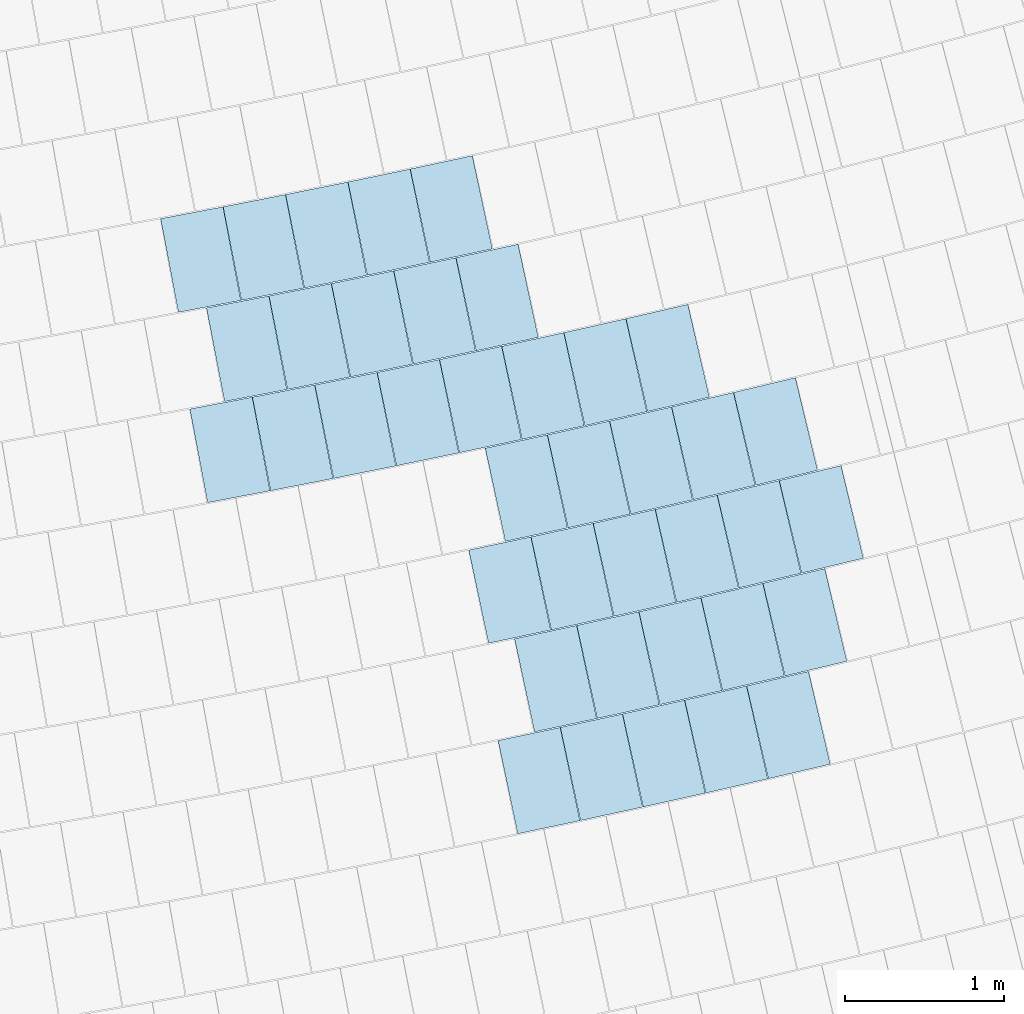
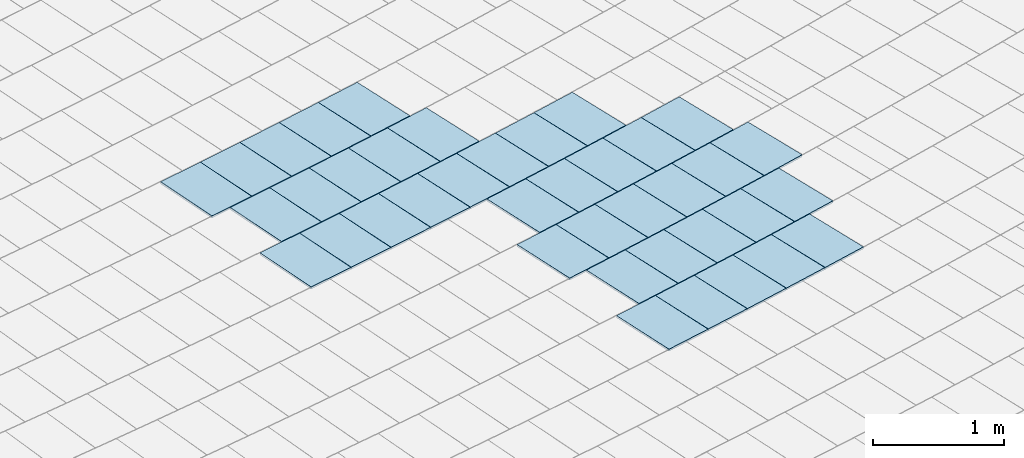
# One storey, part 47 of 438: 39 slabs.
"""IFC2X3 building model written with IfcOpenShell, lengths in millimetres."""

from ifc_helpers import new_model, entity, si_unit, converted_unit, derived_unit, direction, frame, origin, place, context, subcontext, project, spatial, polyline, outline, extrude, material, layer, layer_set, layer_usage, type_object, element, save


model = new_model("IFC2X3")

# Units and contexts
model_context = context("Model", 3, precision=0.01, world=origin(), true_north=direction((6.123031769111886e-17, 1.0)))
body_context = subcontext(model_context, "Body", "Model", "MODEL_VIEW")
ifc_project = project(units=[si_unit("LENGTHUNIT", "METRE", prefix="MILLI"), si_unit("AREAUNIT", "SQUARE_METRE"), si_unit("VOLUMEUNIT", "CUBIC_METRE"), converted_unit("PLANEANGLEUNIT", "DEGREE", entity("IfcRatioMeasure", 0.017453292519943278), si_unit("PLANEANGLEUNIT", "RADIAN"), dimensions=[0, 0, 0, 0, 0, 0, 0]), si_unit("MASSUNIT", "GRAM", prefix="KILO"), derived_unit("MASSDENSITYUNIT", [(si_unit("MASSUNIT", "GRAM", prefix="KILO"), 1), (si_unit("LENGTHUNIT", "METRE"), -3)]), derived_unit("MOMENTOFINERTIAUNIT", [(si_unit("LENGTHUNIT", "METRE"), 4)]), si_unit("TIMEUNIT", "SECOND"), si_unit("FREQUENCYUNIT", "HERTZ"), si_unit("THERMODYNAMICTEMPERATUREUNIT", "DEGREE_CELSIUS"), derived_unit("THERMALTRANSMITTANCEUNIT", [(si_unit("MASSUNIT", "GRAM", prefix="KILO"), 1), (si_unit("THERMODYNAMICTEMPERATUREUNIT", "KELVIN"), -1), (si_unit("TIMEUNIT", "SECOND"), -3)]), derived_unit("THERMALCONDUCTANCEUNIT", [(si_unit("MASSUNIT", "GRAM", prefix="KILO"), 1), (si_unit("LENGTHUNIT", "METRE"), 1), (si_unit("THERMODYNAMICTEMPERATUREUNIT", "KELVIN"), -1), (si_unit("TIMEUNIT", "SECOND"), -3)]), derived_unit("VOLUMETRICFLOWRATEUNIT", [(si_unit("LENGTHUNIT", "METRE"), 3), (si_unit("TIMEUNIT", "SECOND"), -1)]), derived_unit("MASSFLOWRATEUNIT", [(si_unit("MASSUNIT", "GRAM", prefix="KILO"), 1), (si_unit("TIMEUNIT", "SECOND"), -1)]), derived_unit("ROTATIONALFREQUENCYUNIT", [(si_unit("TIMEUNIT", "SECOND"), -1)]), si_unit("ELECTRICCURRENTUNIT", "AMPERE"), si_unit("ELECTRICVOLTAGEUNIT", "VOLT"), si_unit("POWERUNIT", "WATT"), converted_unit("FORCEUNIT", "KIP", entity("IfcRatioMeasure", 2.088543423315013e-05), si_unit("FORCEUNIT", "NEWTON"), dimensions=[1, 1, -2, 0, 0, 0, 0]), si_unit("ILLUMINANCEUNIT", "LUX"), si_unit("LUMINOUSFLUXUNIT", "LUMEN"), si_unit("LUMINOUSINTENSITYUNIT", "CANDELA"), derived_unit("USERDEFINED", [(si_unit("MASSUNIT", "GRAM", prefix="KILO"), -1), (si_unit("LENGTHUNIT", "METRE"), -2), (si_unit("TIMEUNIT", "SECOND"), 3), (si_unit("LUMINOUSFLUXUNIT", "LUMEN"), 1)]), derived_unit("USERDEFINED", [(si_unit("MASSUNIT", "GRAM", prefix="KILO"), 1), (si_unit("LENGTHUNIT", "METRE"), 3), (si_unit("TIMEUNIT", "SECOND"), -3), (si_unit("ELECTRICCURRENTUNIT", "AMPERE"), -2)]), derived_unit("USERDEFINED", [(si_unit("LENGTHUNIT", "METRE"), 2), (si_unit("TIMEUNIT", "SECOND"), -2)]), derived_unit("SOUNDPOWERUNIT", [(si_unit("MASSUNIT", "GRAM", prefix="KILO"), 1), (si_unit("LENGTHUNIT", "METRE"), 2), (si_unit("TIMEUNIT", "SECOND"), -3)]), derived_unit("SOUNDPRESSUREUNIT", [(si_unit("MASSUNIT", "GRAM", prefix="KILO"), 1), (si_unit("LENGTHUNIT", "METRE"), -1), (si_unit("TIMEUNIT", "SECOND"), -2)]), derived_unit("LINEARVELOCITYUNIT", [(si_unit("LENGTHUNIT", "METRE"), 1), (si_unit("TIMEUNIT", "SECOND"), -1)]), si_unit("PRESSUREUNIT", "PASCAL"), derived_unit("USERDEFINED", [(si_unit("LENGTHUNIT", "METRE"), -2), (si_unit("MASSUNIT", "GRAM", prefix="KILO"), 1), (si_unit("TIMEUNIT", "SECOND"), -2)]), derived_unit("LINEARFORCEUNIT", [(si_unit("MASSUNIT", "GRAM", prefix="KILO"), 1), (si_unit("LENGTHUNIT", "METRE"), 1), (si_unit("TIMEUNIT", "SECOND"), -2), (si_unit("LENGTHUNIT", "METRE"), -1)]), derived_unit("PLANARFORCEUNIT", [(si_unit("MASSUNIT", "GRAM", prefix="KILO"), 1), (si_unit("LENGTHUNIT", "METRE"), 1), (si_unit("TIMEUNIT", "SECOND"), -2), (si_unit("LENGTHUNIT", "METRE"), -2)]), derived_unit("SPECIFICHEATCAPACITYUNIT", [(si_unit("LENGTHUNIT", "METRE"), 2), (si_unit("TIMEUNIT", "SECOND"), -2), (si_unit("THERMODYNAMICTEMPERATUREUNIT", "KELVIN"), -1)]), derived_unit("VAPORPERMEABILITYUNIT", [(si_unit("TIMEUNIT", "SECOND"), 1), (si_unit("LENGTHUNIT", "METRE"), -1)]), derived_unit("DYNAMICVISCOSITYUNIT", [(si_unit("MASSUNIT", "GRAM", prefix="KILO"), 1), (si_unit("LENGTHUNIT", "METRE"), -1), (si_unit("TIMEUNIT", "SECOND"), -1)]), derived_unit("THERMALEXPANSIONCOEFFICIENTUNIT", [(si_unit("THERMODYNAMICTEMPERATUREUNIT", "KELVIN"), -1)])], contexts=[model_context])

# Site, building, storey
site_placement = place(None, frame((0.0, 0.0, 0.0), z_axis=(0.0, 0.0, 1.0), x_axis=(0.8191520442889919, 0.5735764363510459, 0.0)))
site = spatial("IfcSite", under=ifc_project, at=site_placement, Name="Default", CompositionType="ELEMENT")
building_placement = place(site_placement, origin())
building = spatial("IfcBuilding", under=site, at=building_placement, CompositionType="ELEMENT")
storey_placement = place(building_placement, origin())
storey = spatial("IfcBuildingStorey", under=building, at=storey_placement, Name="PLAN", CompositionType="ELEMENT", Elevation=0.0)

# Slabs
ifc_material = material(Name="Paint-01")
ifc_layer = layer(ifc_material, 20.00000000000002)
ifc_layer_set = layer_set([ifc_layer], Name="Floor:Slab-179:1000")
ifc_layer_usage = layer_usage(ifc_layer_set, "AXIS3", "POSITIVE", 0.0)
slab_type = type_object("IfcSlabType", Name="Floor:Slab-179:1000", PredefinedType="FLOOR", material=ifc_layer_set)
slab_1_placement = place(storey_placement, origin())
element("IfcSlab", 1, at=slab_1_placement, inside=storey, type_object=slab_type, material=ifc_layer_usage, Name="Floor:Slab-179:1000", ObjectType="Floor:Slab-179:1000", PredefinedType="FLOOR", context=body_context, shape_type="SweptSolid", body=[
    extrude(outline(polyline([(-299.999998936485, -200.0000029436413), (300.000001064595, -200.0000029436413), (299.9999989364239, 200.00000294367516), (-300.0000010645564, 200.00000294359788), (-299.999998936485, -200.0000029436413)])), frame((-67184.87311862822, -135077.35824466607, 20.0), z_axis=(0.0, 0.0, -1.0), x_axis=(-0.3715200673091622, -0.9284249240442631, 0.0)), (0.0, 0.0, 1.0), 20.000000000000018),
])
slab_2_placement = place(storey_placement, origin())
element("IfcSlab", 2, at=slab_2_placement, inside=storey, type_object=slab_type, material=ifc_layer_usage, Name="Floor:Slab-179:1000", ObjectType="Floor:Slab-179:1000", PredefinedType="FLOOR", context=body_context, shape_type="SweptSolid", body=[
    extrude(outline(polyline([(-299.9999989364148, -200.00000294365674), (300.00000106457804, -200.00000294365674), (299.9999989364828, 200.00000294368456), (-300.0000010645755, 200.0000029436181), (-299.9999989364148, -200.00000294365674)])), frame((-68299.83986830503, -134620.37653979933, 20.0), z_axis=(0.0, 0.0, -1.0), x_axis=(-0.38694039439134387, -0.9221047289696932, 0.0)), (0.0, 0.0, 1.0), 20.00000000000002),
])
slab_3_placement = place(storey_placement, origin())
element("IfcSlab", 3, at=slab_3_placement, inside=storey, type_object=slab_type, material=ifc_layer_usage, Name="Floor:Slab-179:1000", ObjectType="Floor:Slab-179:1000", PredefinedType="FLOOR", context=body_context, shape_type="SweptSolid", body=[
    extrude(outline(polyline([(-299.9999989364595, -200.0000029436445), (300.0000010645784, -200.0000029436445), (299.9999989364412, 200.00000294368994), (-300.000001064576, 200.00000294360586), (-299.9999989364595, -200.0000029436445)])), frame((-68669.78395065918, -134463.92797277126, 20.0), z_axis=(0.0, 0.0, -1.0), x_axis=(-0.39205683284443, -0.9199409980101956, 0.0)), (0.0, 0.0, 1.0), 20.00000000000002),
])
slab_4_placement = place(storey_placement, origin())
element("IfcSlab", 4, at=slab_4_placement, inside=storey, type_object=slab_type, material=ifc_layer_usage, Name="Floor:Slab-179:1000", ObjectType="Floor:Slab-179:1000", PredefinedType="FLOOR", context=body_context, shape_type="SweptSolid", body=[
    extrude(outline(polyline([(-299.9999989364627, -200.00000294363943), (300.0000010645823, -200.00000294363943), (299.99999893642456, 200.00000294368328), (-300.0000010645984, 200.00000294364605), (-299.9999989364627, -200.00000294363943)])), frame((-67929.03240246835, -134774.76760648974, 20.0), z_axis=(0.0, 0.0, -1.0), x_axis=(-0.3818120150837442, -0.9242400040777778, 0.0)), (0.0, 0.0, 1.0), 20.00000000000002),
])
slab_5_placement = place(storey_placement, origin())
element("IfcSlab", 5, at=slab_5_placement, inside=storey, type_object=slab_type, material=ifc_layer_usage, Name="Floor:Slab-179:1000", ObjectType="Floor:Slab-179:1000", PredefinedType="FLOOR", context=body_context, shape_type="SweptSolid", body=[
    extrude(outline(polyline([(-299.99999893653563, -200.000002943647), (300.00000106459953, -200.000002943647), (299.9999989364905, 200.00000294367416), (-300.0000010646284, 200.00000294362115), (-299.99999893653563, -200.000002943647)])), frame((-66729.61206488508, -134607.43269815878, 20.0), z_axis=(0.0, 0.0, -1.0), x_axis=(-0.3683054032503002, -0.9297048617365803, 0.0)), (0.0, 0.0, 1.0), 20.00000000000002),
])
slab_6_placement = place(storey_placement, origin())
element("IfcSlab", 6, at=slab_6_placement, inside=storey, type_object=slab_type, material=ifc_layer_usage, Name="Floor:Slab-179:1000", ObjectType="Floor:Slab-179:1000", PredefinedType="FLOOR", context=body_context, shape_type="SweptSolid", body=[
    extrude(outline(polyline([(-299.9999989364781, -200.0000029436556), (300.00000106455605, -200.0000029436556), (299.9999989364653, 200.00000294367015), (-300.0000010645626, 200.00000294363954), (-299.9999989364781, -200.0000029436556)])), frame((-67557.37299614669, -134927.0964083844, 20.0), z_axis=(0.0, 0.0, -1.0), x_axis=(-0.3766718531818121, -0.9263467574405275, 0.0)), (0.0, 0.0, 1.0), 20.000000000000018),
])
slab_7_placement = place(storey_placement, origin())
element("IfcSlab", 7, at=slab_7_placement, inside=storey, type_object=slab_type, material=ifc_layer_usage, Name="Floor:Slab-179:1000", ObjectType="Floor:Slab-179:1000", PredefinedType="FLOOR", context=body_context, shape_type="SweptSolid", body=[
    extrude(outline(polyline([(-299.9999989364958, -200.00000294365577), (300.00000106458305, -200.0000029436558), (299.99999893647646, 200.00000294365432), (-300.0000010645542, 200.00000294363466), (-299.9999989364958, -200.00000294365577)])), frame((-67474.82586487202, -134307.37314821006, 20.0), z_axis=(0.0, 0.0, -1.0), x_axis=(-0.37869890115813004, -0.9255199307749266, 0.0)), (0.0, 0.0, 1.0), 20.00000000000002),
])
slab_8_placement = place(storey_placement, origin())
element("IfcSlab", 8, at=slab_8_placement, inside=storey, type_object=slab_type, material=ifc_layer_usage, Name="Floor:Slab-179:1000", ObjectType="Floor:Slab-179:1000", PredefinedType="FLOOR", context=body_context, shape_type="SweptSolid", body=[
    extrude(outline(polyline([(-299.99999893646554, -200.00000294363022), (300.00000106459, -200.0000029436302), (299.99999893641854, 200.00000294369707), (-300.0000010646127, 200.00000294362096), (-299.99999893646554, -200.00000294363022)])), frame((-68216.63095569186, -133998.98289472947, 20.0), z_axis=(0.0, 0.0, -1.0), x_axis=(-0.38904485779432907, -0.9212188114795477, 0.0)), (0.0, 0.0, 1.0), 20.00000000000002),
])
slab_9_placement = place(storey_placement, origin())
element("IfcSlab", 9, at=slab_9_placement, inside=storey, type_object=slab_type, material=ifc_layer_usage, Name="Floor:Slab-179:1000", ObjectType="Floor:Slab-179:1000", PredefinedType="FLOOR", context=body_context, shape_type="SweptSolid", body=[
    extrude(outline(polyline([(-299.9999989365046, -200.00000294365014), (300.0000010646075, -200.00000294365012), (299.99999893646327, 200.00000294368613), (-300.00000106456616, 200.00000294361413), (-299.9999989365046, -200.00000294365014)])), frame((-67846.16032941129, -134154.21696418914, 20.0), z_axis=(0.0, 0.0, -1.0), x_axis=(-0.3838779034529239, -0.9233838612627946, 0.0)), (0.0, 0.0, 1.0), 20.000000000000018),
])
slab_10_placement = place(storey_placement, origin())
element("IfcSlab", 10, at=slab_10_placement, inside=storey, type_object=slab_type, material=ifc_layer_usage, Name="Floor:Slab-179:1000", ObjectType="Floor:Slab-179:1000", PredefinedType="FLOOR", context=body_context, shape_type="SweptSolid", body=[
    extrude(outline(polyline([(-299.9999989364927, -200.0000029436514), (300.00000106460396, -200.0000029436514), (299.99999893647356, 200.0000029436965), (-300.0000010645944, 200.00000294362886), (-299.9999989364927, -200.0000029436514)])), frame((-67102.63921635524, -134458.44664000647, 20.0), z_axis=(0.0, 0.0, -1.0), x_axis=(-0.37350801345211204, -0.9276269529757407, 0.0)), (0.0, 0.0, 1.0), 20.000000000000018),
])
slab_11_placement = place(storey_placement, origin())
element("IfcSlab", 11, at=slab_11_placement, inside=storey, type_object=slab_type, material=ifc_layer_usage, Name="Floor:Slab-179:1000", ObjectType="Floor:Slab-179:1000", PredefinedType="FLOOR", context=body_context, shape_type="SweptSolid", body=[
    extrude(outline(polyline([(-299.999998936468, -200.00000294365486), (300.0000010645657, -200.00000294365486), (299.99999893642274, 200.0000029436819), (-300.0000010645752, 200.00000294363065), (-299.999998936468, -200.00000294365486)])), frame((-66274.01299293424, -134136.70195797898, 20.0), z_axis=(0.0, 0.0, -1.0), x_axis=(-0.3650312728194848, -0.9309952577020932, 0.0)), (0.0, 0.0, 1.0), 20.000000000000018),
])
slab_12_placement = place(storey_placement, origin())
element("IfcSlab", 12, at=slab_12_placement, inside=storey, type_object=slab_type, material=ifc_layer_usage, Name="Floor:Slab-179:1000", ObjectType="Floor:Slab-179:1000", PredefinedType="FLOOR", context=body_context, shape_type="SweptSolid", body=[
    extrude(outline(polyline([(-299.9999989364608, -200.0000029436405), (300.00000106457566, -200.0000029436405), (299.9999989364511, 200.00000294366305), (-300.0000010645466, 200.00000294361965), (-299.9999989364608, -200.0000029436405)])), frame((-66647.57194783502, -133989.01538009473, 20.0), z_axis=(0.0, 0.0, -1.0), x_axis=(-0.37028563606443, -0.9289179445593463, 0.0)), (0.0, 0.0, 1.0), 20.00000000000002),
])
slab_13_placement = place(storey_placement, origin())
element("IfcSlab", 13, at=slab_13_placement, inside=storey, type_object=slab_type, material=ifc_layer_usage, Name="Floor:Slab-179:1000", ObjectType="Floor:Slab-179:1000", PredefinedType="FLOOR", context=body_context, shape_type="SweptSolid", body=[
    extrude(outline(polyline([(-299.9999989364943, -200.00000294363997), (300.0000010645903, -200.00000294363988), (299.9999989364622, 200.00000294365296), (-300.00000106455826, 200.0000029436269), (-299.9999989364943, -200.00000294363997)])), frame((-67020.29050034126, -133839.22052473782, 20.0), z_axis=(0.0, 0.0, -1.0), x_axis=(-0.37552817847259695, -0.9268109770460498, 0.0)), (0.0, 0.0, 1.0), 20.00000000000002),
])
slab_14_placement = place(storey_placement, origin())
element("IfcSlab", 14, at=slab_14_placement, inside=storey, type_object=slab_type, material=ifc_layer_usage, Name="Floor:Slab-179:1000", ObjectType="Floor:Slab-179:1000", PredefinedType="FLOOR", context=body_context, shape_type="SweptSolid", body=[
    extrude(outline(polyline([(-299.9999989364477, -200.0000029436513), (300.000001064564, -200.00000294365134), (299.9999989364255, 200.00000294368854), (-300.0000010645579, 200.0000029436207), (-299.9999989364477, -200.0000029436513)])), frame((-67392.15675194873, -133687.3221738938, 20.0), z_axis=(0.0, 0.0, -1.0), x_axis=(-0.3807587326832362, -0.9246744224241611, 0.0)), (0.0, 0.0, 1.0), 20.00000000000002),
])
slab_15_placement = place(storey_placement, origin())
element("IfcSlab", 15, at=slab_15_placement, inside=storey, type_object=slab_type, material=ifc_layer_usage, Name="Floor:Slab-179:1000", ObjectType="Floor:Slab-179:1000", PredefinedType="FLOOR", context=body_context, shape_type="SweptSolid", body=[
    extrude(outline(polyline([(-299.99999893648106, -200.0000029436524), (300.00000106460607, -200.00000294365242), (299.99999893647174, 200.0000029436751), (-300.00000106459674, 200.00000294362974), (-299.99999893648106, -200.0000029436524)])), frame((-67763.15883136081, -133533.3251766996, 20.0), z_axis=(0.0, 0.0, -1.0), x_axis=(-0.38597713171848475, -0.9225083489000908, 0.0)), (0.0, 0.0, 1.0), 20.000000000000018),
])
slab_16_placement = place(storey_placement, origin())
element("IfcSlab", 16, at=slab_16_placement, inside=storey, type_object=slab_type, material=ifc_layer_usage, Name="Floor:Slab-179:1000", ObjectType="Floor:Slab-179:1000", PredefinedType="FLOOR", context=body_context, shape_type="SweptSolid", body=[
    extrude(outline(polyline([(-299.99999893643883, -200.00000294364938), (300.00000106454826, -200.00000294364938), (299.99999893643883, 200.00000294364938), (-300.0000010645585, 200.00000294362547), (-299.99999893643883, -200.00000294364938)])), frame((-68133.28489487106, -133377.23444928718, 20.0), z_axis=(0.0, 0.0, -1.0), x_axis=(-0.3911832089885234, -0.920312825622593, 0.0)), (0.0, 0.0, 1.0), 20.00000000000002),
])
slab_17_placement = place(storey_placement, origin())
element("IfcSlab", 17, at=slab_17_placement, inside=storey, type_object=slab_type, material=ifc_layer_usage, Name="Floor:Slab-179:1000", ObjectType="Floor:Slab-179:1000", PredefinedType="FLOOR", context=body_context, shape_type="SweptSolid", body=[
    extrude(outline(polyline([(-299.99999893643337, -200.00000294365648), (300.0000010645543, -200.0000029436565), (299.9999989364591, 200.00000294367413), (-300.00000106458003, 200.0000029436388), (-299.99999893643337, -200.00000294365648)])), frame((-66565.42045993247, -133370.28895267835, 20.0), z_axis=(0.0, 0.0, -1.0), x_axis=(-0.3722982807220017, -0.9281131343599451, 0.0)), (0.0, 0.0, 1.0), 20.00000000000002),
])
slab_18_placement = place(storey_placement, origin())
element("IfcSlab", 18, at=slab_18_placement, inside=storey, type_object=slab_type, material=ifc_layer_usage, Name="Floor:Slab-179:1000", ObjectType="Floor:Slab-179:1000", PredefinedType="FLOOR", context=body_context, shape_type="SweptSolid", body=[
    extrude(outline(polyline([(-299.9999989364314, -200.0000029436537), (300.0000010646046, -200.00000294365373), (299.9999989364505, 200.0000029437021), (-300.000001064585, 200.0000029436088), (-299.9999989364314, -200.0000029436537)])), frame((-66192.16534135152, -133518.7812087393, 20.0), z_axis=(0.0, 0.0, -1.0), x_axis=(-0.36700313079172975, -0.9302197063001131, 0.0)), (0.0, 0.0, 1.0), 20.00000000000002),
])
slab_19_placement = place(storey_placement, origin())
element("IfcSlab", 19, at=slab_19_placement, inside=storey, type_object=slab_type, material=ifc_layer_usage, Name="Floor:Slab-179:1000", ObjectType="Floor:Slab-179:1000", PredefinedType="FLOOR", context=body_context, shape_type="SweptSolid", body=[
    extrude(outline(polyline([(-299.99999893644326, -200.00000294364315), (300.0000010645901, -200.00000294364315), (299.99999893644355, 200.00000294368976), (-300.00000106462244, 200.00000294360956), (-299.99999893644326, -200.00000294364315)])), frame((-66937.82329414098, -133219.6720122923, 20.0), z_axis=(0.0, 0.0, -1.0), x_axis=(-0.3775813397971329, -0.9259764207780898, 0.0)), (0.0, 0.0, 1.0), 20.00000000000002),
])
slab_20_placement = place(storey_placement, origin())
element("IfcSlab", 20, at=slab_20_placement, inside=storey, type_object=slab_type, material=ifc_layer_usage, Name="Floor:Slab-179:1000", ObjectType="Floor:Slab-179:1000", PredefinedType="FLOOR", context=body_context, shape_type="SweptSolid", body=[
    extrude(outline(polyline([(-299.99999893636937, -200.00000294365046), (300.0000010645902, -200.00000294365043), (299.99999893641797, 200.00000294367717), (-300.0000010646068, 200.00000294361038), (-299.99999893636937, -200.00000294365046)])), frame((-67309.36174972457, -133066.9352790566, 20.0), z_axis=(0.0, 0.0, -1.0), x_axis=(-0.3828521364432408, -0.9238096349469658, 0.0)), (0.0, 0.0, 1.0), 20.00000000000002),
])
slab_21_placement = place(storey_placement, origin())
element("IfcSlab", 21, at=slab_21_placement, inside=storey, type_object=slab_type, material=ifc_layer_usage, Name="Floor:Slab-179:1000", ObjectType="Floor:Slab-179:1000", PredefinedType="FLOOR", context=body_context, shape_type="SweptSolid", body=[
    extrude(outline(polyline([(-299.9999989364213, -200.00000294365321), (300.0000010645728, -200.00000294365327), (299.9999989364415, 200.00000294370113), (-300.00000106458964, 200.00000294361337), (-299.9999989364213, -200.00000294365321)])), frame((-67680.02376050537, -132912.0837132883, 20.0), z_axis=(0.0, 0.0, -1.0), x_axis=(-0.38811049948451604, -0.9216128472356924, 0.0)), (0.0, 0.0, 1.0), 20.000000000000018),
])
slab_22_placement = place(storey_placement, origin())
element("IfcSlab", 22, at=slab_22_placement, inside=storey, type_object=slab_type, material=ifc_layer_usage, Name="Floor:Slab-179:1000", ObjectType="Floor:Slab-179:1000", PredefinedType="FLOOR", context=body_context, shape_type="SweptSolid", body=[
    extrude(outline(polyline([(-299.9999989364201, -200.00000294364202), (300.0000010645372, -200.000002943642), (299.99999893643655, 200.0000029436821), (-300.00000106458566, 200.0000029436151), (-299.9999989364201, -200.00000294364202)])), frame((-66855.23376919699, -132599.79295208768, 20.0), z_axis=(0.0, 0.0, -1.0), x_axis=(-0.3796682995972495, -0.9251226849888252, 0.0)), (0.0, 0.0, 1.0), 20.00000000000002),
])
slab_23_placement = place(storey_placement, origin())
element("IfcSlab", 23, at=slab_23_placement, inside=storey, type_object=slab_type, material=ifc_layer_usage, Name="Floor:Slab-179:1000", ObjectType="Floor:Slab-179:1000", PredefinedType="FLOOR", context=body_context, shape_type="SweptSolid", body=[
    extrude(outline(polyline([(-299.99999893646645, -200.0000029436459), (300.00000106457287, -200.0000029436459), (299.99999893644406, 200.000002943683), (-300.00000106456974, 200.0000029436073), (-299.99999893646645, -200.0000029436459)])), frame((-66483.15400423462, -132751.24559057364, 20.0), z_axis=(0.0, 0.0, -1.0), x_axis=(-0.3743441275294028, -0.9272898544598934, 0.0)), (0.0, 0.0, 1.0), 20.000000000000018),
])
slab_24_placement = place(storey_placement, origin())
element("IfcSlab", 24, at=slab_24_placement, inside=storey, type_object=slab_type, material=ifc_layer_usage, Name="Floor:Slab-179:1000", ObjectType="Floor:Slab-179:1000", PredefinedType="FLOOR", context=body_context, shape_type="SweptSolid", body=[
    extrude(outline(polyline([(-299.99999893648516, -200.00000294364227), (300.00000106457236, -200.00000294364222), (299.99999893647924, 200.0000029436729), (-300.00000106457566, 200.00000294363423), (-299.99999893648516, -200.00000294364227)])), frame((-67226.43678885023, -132446.20398308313, 20.0), z_axis=(0.0, 0.0, -1.0), x_axis=(-0.38497992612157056, -0.9229249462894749, 0.0)), (0.0, 0.0, 1.0), 20.00000000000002),
])
slab_25_placement = place(storey_placement, origin())
element("IfcSlab", 25, at=slab_25_placement, inside=storey, type_object=slab_type, material=ifc_layer_usage, Name="Floor:Slab-179:1000", ObjectType="Floor:Slab-179:1000", PredefinedType="FLOOR", context=body_context, shape_type="SweptSolid", body=[
    extrude(outline(polyline([(-299.99999893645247, -200.0000029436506), (300.0000010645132, -200.0000029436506), (299.99999893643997, 200.0000029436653), (-300.0000010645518, 200.00000294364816), (-299.99999893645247, -200.0000029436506)])), frame((-67596.75079737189, -132290.4837586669, 20.0), z_axis=(0.0, 0.0, -1.0), x_axis=(-0.39027883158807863, -0.9206967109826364, 0.0)), (0.0, 0.0, 1.0), 20.000000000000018),
])
slab_26_placement = place(storey_placement, origin())
element("IfcSlab", 26, at=slab_26_placement, inside=storey, type_object=slab_type, material=ifc_layer_usage, Name="Floor:Slab-179:1000", ObjectType="Floor:Slab-179:1000", PredefinedType="FLOOR", context=body_context, shape_type="SweptSolid", body=[
    extrude(outline(polyline([(-299.999998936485, -200.00000294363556), (300.00000106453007, -200.00000294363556), (299.99999893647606, 200.00000294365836), (-300.00000106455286, 200.00000294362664), (-299.999998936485, -200.00000294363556)])), frame((-68334.66286501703, -131972.6701959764, 20.0), z_axis=(0.0, 0.0, -1.0), x_axis=(-0.40083777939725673, -0.9161490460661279, 0.0)), (0.0, 0.0, 1.0), 20.00000000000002),
])
slab_27_placement = place(storey_placement, origin())
element("IfcSlab", 27, at=slab_27_placement, inside=storey, type_object=slab_type, material=ifc_layer_usage, Name="Floor:Slab-179:1000", ObjectType="Floor:Slab-179:1000", PredefinedType="FLOOR", context=body_context, shape_type="SweptSolid", body=[
    extrude(outline(polyline([(-299.99999893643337, -200.0000029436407), (300.00000106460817, -200.0000029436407), (299.9999989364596, 200.00000294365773), (-300.0000010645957, 200.00000294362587), (-299.99999893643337, -200.0000029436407)])), frame((-67966.16355831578, -132132.63742436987, 20.0), z_axis=(0.0, 0.0, -1.0), x_axis=(-0.39556484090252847, -0.9184380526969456, 0.0)), (0.0, 0.0, 1.0), 20.00000000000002),
])
slab_28_placement = place(storey_placement, origin())
element("IfcSlab", 28, at=slab_28_placement, inside=storey, type_object=slab_type, material=ifc_layer_usage, Name="Floor:Slab-179:1000", ObjectType="Floor:Slab-179:1000", PredefinedType="FLOOR", context=body_context, shape_type="SweptSolid", body=[
    extrude(outline(polyline([(-299.99999893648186, -200.00000294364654), (300.00000106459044, -200.00000294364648), (299.9999989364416, 200.00000294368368), (-300.00000106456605, 200.00000294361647), (-299.99999893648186, -200.00000294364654)])), frame((-69068.87244035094, -131646.3942702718, 20.0), z_axis=(0.0, 0.0, -1.0), x_axis=(-0.4113437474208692, -0.9114802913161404, 0.0)), (0.0, 0.0, 1.0), 20.00000000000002),
])
slab_29_placement = place(storey_placement, origin())
element("IfcSlab", 29, at=slab_29_placement, inside=storey, type_object=slab_type, material=ifc_layer_usage, Name="Floor:Slab-179:1000", ObjectType="Floor:Slab-179:1000", PredefinedType="FLOOR", context=body_context, shape_type="SweptSolid", body=[
    extrude(outline(polyline([(-299.99999893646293, -200.00000294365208), (300.0000010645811, -200.0000029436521), (299.9999989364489, 200.00000294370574), (-300.0000010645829, 200.00000294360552), (-299.99999893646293, -200.00000294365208)])), frame((-68702.23654099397, -131810.58735935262, 20.0), z_axis=(0.0, 0.0, -1.0), x_axis=(-0.40609747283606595, -0.9138297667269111, 0.0)), (0.0, 0.0, 1.0), 20.00000000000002),
])
slab_30_placement = place(storey_placement, origin())
element("IfcSlab", 30, at=slab_30_placement, inside=storey, type_object=slab_type, material=ifc_layer_usage, Name="Floor:Slab-179:1000", ObjectType="Floor:Slab-179:1000", PredefinedType="FLOOR", context=body_context, shape_type="SweptSolid", body=[
    extrude(outline(polyline([(-299.99999893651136, -200.00000294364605), (300.00000106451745, -200.00000294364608), (299.9999989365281, 200.00000294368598), (-300.00000106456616, 200.00000294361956), (-299.99999893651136, -200.00000294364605)])), frame((-67143.37796986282, -131825.11937699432, 20.0), z_axis=(0.0, 0.0, -1.0), x_axis=(-0.38714294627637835, -0.9220197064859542, 0.0)), (0.0, 0.0, 1.0), 20.00000000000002),
])
slab_31_placement = place(storey_placement, origin())
element("IfcSlab", 31, at=slab_31_placement, inside=storey, type_object=slab_type, material=ifc_layer_usage, Name="Floor:Slab-179:1000", ObjectType="Floor:Slab-179:1000", PredefinedType="FLOOR", context=body_context, shape_type="SweptSolid", body=[
    extrude(outline(polyline([(-299.9999989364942, -200.00000294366), (300.00000106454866, -200.00000294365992), (299.99999893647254, 200.00000294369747), (-300.0000010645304, 200.00000294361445), (-299.9999989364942, -200.00000294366)])), frame((-67513.33578107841, -131668.516056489, 20.0), z_axis=(0.0, 0.0, -1.0), x_axis=(-0.3924829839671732, -0.9197592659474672, 0.0)), (0.0, 0.0, 1.0), 20.00000000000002),
])
slab_32_placement = place(storey_placement, origin())
element("IfcSlab", 32, at=slab_32_placement, inside=storey, type_object=slab_type, material=ifc_layer_usage, Name="Floor:Slab-179:1000", ObjectType="Floor:Slab-179:1000", PredefinedType="FLOOR", context=body_context, shape_type="SweptSolid", body=[
    extrude(outline(polyline([(-299.99999893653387, -200.00000294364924), (300.0000010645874, -200.0000029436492), (299.9999989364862, 200.0000029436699), (-300.00000106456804, 200.0000029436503), (-299.99999893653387, -200.00000294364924)])), frame((-67882.37927133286, -131509.77008213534, 20.0), z_axis=(0.0, 0.0, -1.0), x_axis=(-0.3978098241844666, -0.9174678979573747, 0.0)), (0.0, 0.0, 1.0), 20.00000000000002),
])
slab_33_placement = place(storey_placement, origin())
element("IfcSlab", 33, at=slab_33_placement, inside=storey, type_object=slab_type, material=ifc_layer_usage, Name="Floor:Slab-179:1000", ObjectType="Floor:Slab-179:1000", PredefinedType="FLOOR", context=body_context, shape_type="SweptSolid", body=[
    extrude(outline(polyline([(-299.99999893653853, -200.00000294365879), (300.0000010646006, -200.00000294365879), (299.99999893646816, 200.00000294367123), (-300.0000010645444, 200.00000294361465), (-299.99999893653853, -200.00000294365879)])), frame((-68617.6736828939, -131185.87159546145, 20.0), z_axis=(0.0, 0.0, -1.0), x_axis=(-0.40842319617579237, -0.9127926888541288, 0.0)), (0.0, 0.0, 1.0), 20.000000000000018),
])
slab_34_placement = place(storey_placement, origin())
element("IfcSlab", 34, at=slab_34_placement, inside=storey, type_object=slab_type, material=ifc_layer_usage, Name="Floor:Slab-179:1000", ObjectType="Floor:Slab-179:1000", PredefinedType="FLOOR", context=body_context, shape_type="SweptSolid", body=[
    extrude(outline(polyline([(-299.999998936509, -200.00000294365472), (300.0000010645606, -200.00000294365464), (299.9999989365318, 200.00000294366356), (-300.00000106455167, 200.00000294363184), (-299.999998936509, -200.00000294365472)])), frame((-68250.49603131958, -131348.88679186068, 20.0), z_axis=(0.0, 0.0, -1.0), x_axis=(-0.4031232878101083, -0.9151456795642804, 0.0)), (0.0, 0.0, 1.0), 20.00000000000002),
])
slab_35_placement = place(storey_placement, origin())
element("IfcSlab", 35, at=slab_35_placement, inside=storey, type_object=slab_type, material=ifc_layer_usage, Name="Floor:Slab-179:1000", ObjectType="Floor:Slab-179:1000", PredefinedType="FLOOR", context=body_context, shape_type="SweptSolid", body=[
    extrude(outline(polyline([(-299.9999989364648, -200.00000294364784), (300.0000010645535, -200.00000294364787), (299.99999893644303, 200.00000294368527), (-300.000001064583, 200.00000294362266), (-299.9999989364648, -200.00000294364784)])), frame((-67060.17985534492, -131203.67282486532, 20.0), z_axis=(0.0, 0.0, -1.0), x_axis=(-0.3893420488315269, -0.9210932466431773, 0.0)), (0.0, 0.0, 1.0), 20.00000000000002),
])
slab_36_placement = place(storey_placement, origin())
element("IfcSlab", 36, at=slab_36_placement, inside=storey, type_object=slab_type, material=ifc_layer_usage, Name="Floor:Slab-179:1000", ObjectType="Floor:Slab-179:1000", PredefinedType="FLOOR", context=body_context, shape_type="SweptSolid", body=[
    extrude(outline(polyline([(-299.99999893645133, -200.00000294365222), (300.00000106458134, -200.00000294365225), (299.9999989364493, 200.00000294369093), (-300.0000010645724, 200.00000294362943), (-299.99999893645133, -200.00000294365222)])), frame((-67798.43844198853, -130886.51097537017, 20.0), z_axis=(0.0, 0.0, -1.0), x_axis=(-0.4000920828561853, -0.9164749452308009, 0.0)), (0.0, 0.0, 1.0), 20.00000000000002),
])
slab_37_placement = place(storey_placement, origin())
element("IfcSlab", 37, at=slab_37_placement, inside=storey, type_object=slab_type, material=ifc_layer_usage, Name="Floor:Slab-179:1000", ObjectType="Floor:Slab-179:1000", PredefinedType="FLOOR", context=body_context, shape_type="SweptSolid", body=[
    extrude(outline(polyline([(-299.9999989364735, -200.00000294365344), (300.00000106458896, -200.00000294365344), (299.99999893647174, 200.00000294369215), (-300.0000010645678, 200.00000294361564), (-299.9999989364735, -200.00000294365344)])), frame((-68166.16354899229, -130724.69635452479, 20.0), z_axis=(0.0, 0.0, -1.0), x_axis=(-0.4054466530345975, -0.9141187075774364, 0.0)), (0.0, 0.0, 1.0), 20.00000000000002),
])
slab_38_placement = place(storey_placement, origin())
element("IfcSlab", 38, at=slab_38_placement, inside=storey, type_object=slab_type, material=ifc_layer_usage, Name="Floor:Slab-179:1000", ObjectType="Floor:Slab-179:1000", PredefinedType="FLOOR", context=body_context, shape_type="SweptSolid", body=[
    extrude(outline(polyline([(-299.9999989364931, -200.00000294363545), (300.0000010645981, -200.0000029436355), (299.99999893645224, 200.00000294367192), (-300.0000010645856, 200.0000029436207), (-299.9999989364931, -200.00000294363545)])), frame((-67429.77300512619, -131046.17162018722, 20.0), z_axis=(0.0, 0.0, -1.0), x_axis=(-0.3947238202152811, -0.9187998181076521, 0.0)), (0.0, 0.0, 1.0), 20.00000000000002),
])
slab_39_placement = place(storey_placement, origin())
element("IfcSlab", 39, at=slab_39_placement, inside=storey, type_object=slab_type, material=ifc_layer_usage, Name="Floor:Slab-179:1000", ObjectType="Floor:Slab-179:1000", PredefinedType="FLOOR", context=body_context, shape_type="SweptSolid", body=[
    extrude(outline(polyline([(-299.9999989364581, -200.00000294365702), (300.0000010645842, -200.00000294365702), (299.9999989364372, 200.00000294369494), (-300.0000010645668, 200.0000029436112), (-299.9999989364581, -200.00000294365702)])), frame((-68532.93574137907, -130560.73329547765, 20.0), z_axis=(0.0, 0.0, -1.0), x_axis=(-0.4107873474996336, -0.9117311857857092, 0.0)), (0.0, 0.0, 1.0), 20.000000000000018),
])

save(model, "model.ifc")
